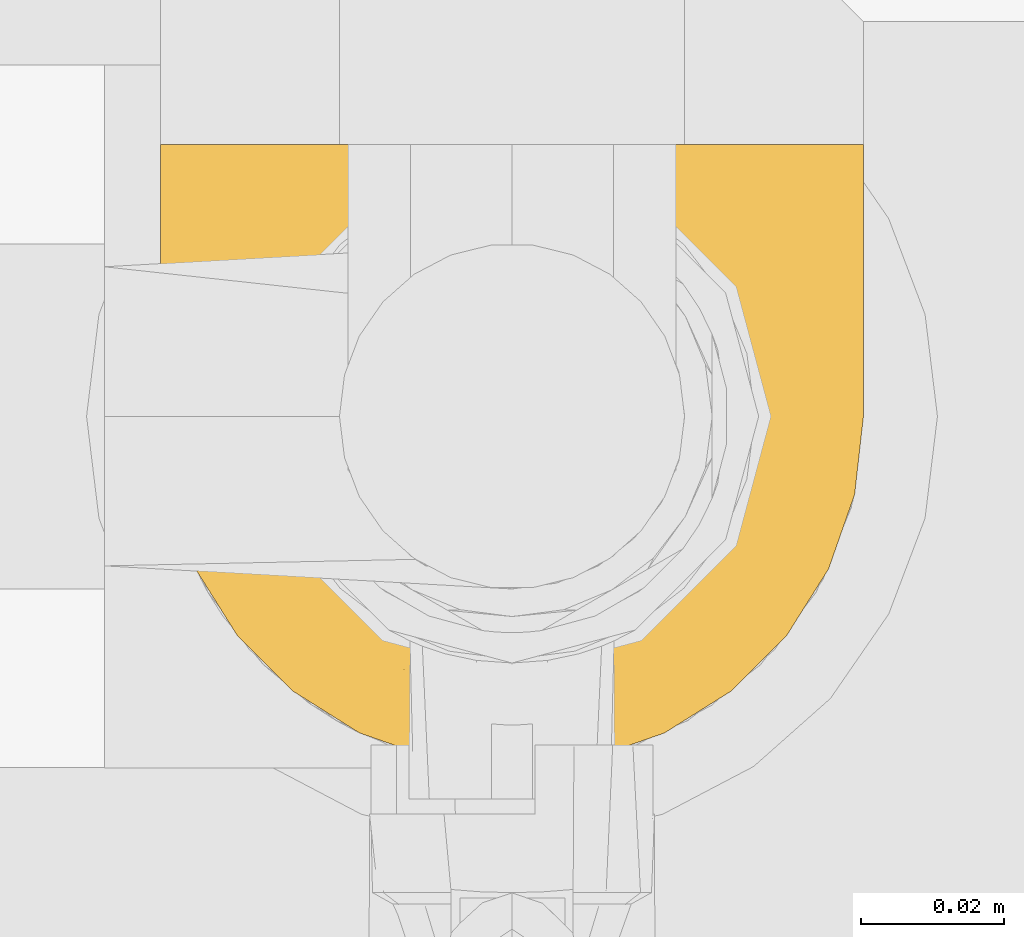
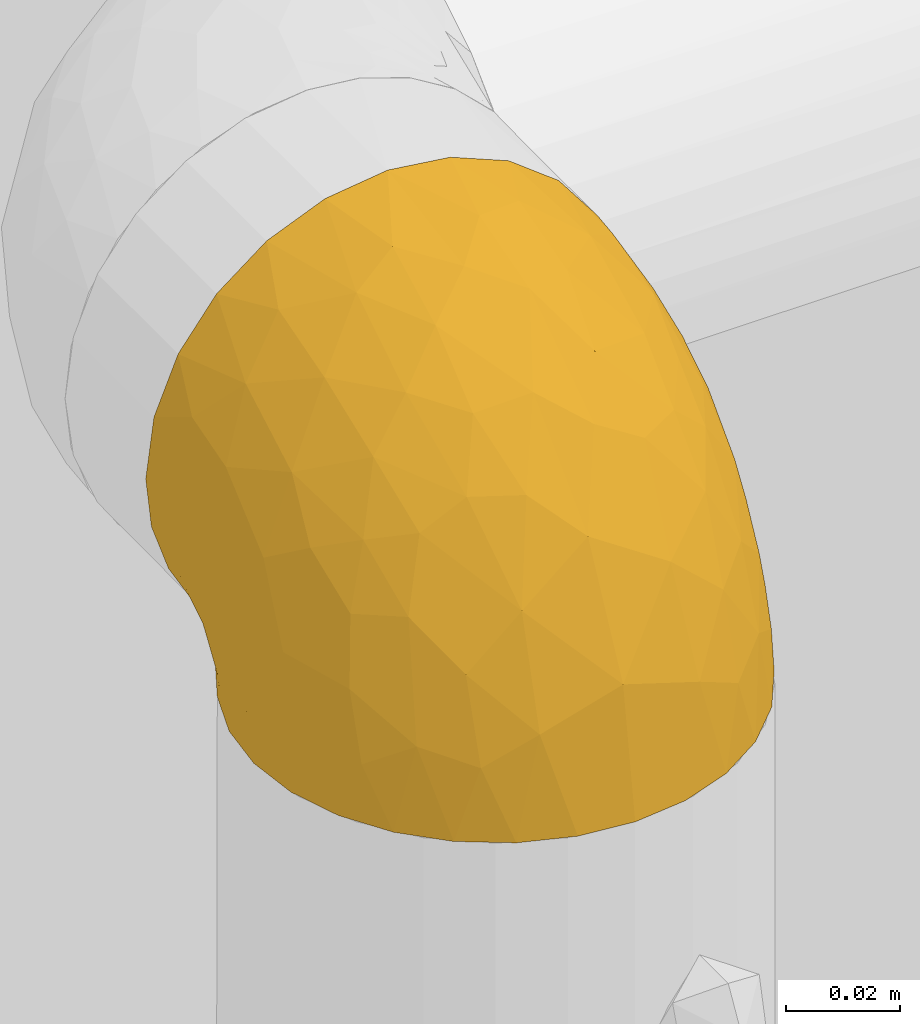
# One storey, part 12 of 94: 1 covering.
"""IFC2X3 building model written with IfcOpenShell, lengths in millimetres."""

from ifc_helpers import new_model, entity, si_unit, converted_unit, derived_unit, direction, frame, origin, place, context, subcontext, project, spatial, faceted_brep, material, element, save


model = new_model("IFC2X3")

# Units and contexts
model_context = context("Model", 3, precision=0.01, world=origin(), true_north=direction((6.123031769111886e-17, 1.0)))
body_context = subcontext(model_context, "Body", "Model", "MODEL_VIEW")
ifc_project = project(units=[si_unit("LENGTHUNIT", "METRE", prefix="MILLI"), si_unit("AREAUNIT", "SQUARE_METRE"), si_unit("VOLUMEUNIT", "CUBIC_METRE"), converted_unit("PLANEANGLEUNIT", "DEGREE", entity("IfcRatioMeasure", 0.017453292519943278), si_unit("PLANEANGLEUNIT", "RADIAN"), dimensions=[0, 0, 0, 0, 0, 0, 0]), si_unit("MASSUNIT", "GRAM", prefix="KILO"), derived_unit("MASSDENSITYUNIT", [(si_unit("MASSUNIT", "GRAM", prefix="KILO"), 1), (si_unit("LENGTHUNIT", "METRE"), -3)]), derived_unit("IONCONCENTRATIONUNIT", [(si_unit("MASSUNIT", "GRAM", prefix="KILO"), 1), (si_unit("LENGTHUNIT", "METRE"), -3)]), derived_unit("MOMENTOFINERTIAUNIT", [(si_unit("LENGTHUNIT", "METRE"), 4)]), si_unit("TIMEUNIT", "SECOND"), si_unit("FREQUENCYUNIT", "HERTZ"), si_unit("THERMODYNAMICTEMPERATUREUNIT", "DEGREE_CELSIUS"), derived_unit("THERMALTRANSMITTANCEUNIT", [(si_unit("MASSUNIT", "GRAM", prefix="KILO"), 1), (si_unit("THERMODYNAMICTEMPERATUREUNIT", "KELVIN"), -1), (si_unit("TIMEUNIT", "SECOND"), -3)]), derived_unit("THERMALCONDUCTANCEUNIT", [(si_unit("MASSUNIT", "GRAM", prefix="KILO"), 1), (si_unit("THERMODYNAMICTEMPERATUREUNIT", "KELVIN"), -1), (si_unit("TIMEUNIT", "SECOND"), -3), (si_unit("LENGTHUNIT", "METRE"), 1)]), derived_unit("VOLUMETRICFLOWRATEUNIT", [(si_unit("LENGTHUNIT", "METRE"), 3), (si_unit("TIMEUNIT", "SECOND"), -1)]), derived_unit("MASSFLOWRATEUNIT", [(si_unit("MASSUNIT", "GRAM", prefix="KILO"), 1), (si_unit("TIMEUNIT", "SECOND"), -1)]), derived_unit("ROTATIONALFREQUENCYUNIT", [(si_unit("TIMEUNIT", "SECOND"), -1)]), si_unit("ELECTRICCURRENTUNIT", "AMPERE"), si_unit("ELECTRICVOLTAGEUNIT", "VOLT"), si_unit("POWERUNIT", "WATT"), si_unit("FORCEUNIT", "NEWTON", prefix="KILO"), si_unit("ILLUMINANCEUNIT", "LUX"), si_unit("LUMINOUSFLUXUNIT", "LUMEN"), si_unit("LUMINOUSINTENSITYUNIT", "CANDELA"), derived_unit("USERDEFINED", [(si_unit("MASSUNIT", "GRAM", prefix="KILO"), -1), (si_unit("LENGTHUNIT", "METRE"), -2), (si_unit("TIMEUNIT", "SECOND"), 3), (si_unit("LUMINOUSFLUXUNIT", "LUMEN"), 1)]), derived_unit("USERDEFINED", [(si_unit("MASSUNIT", "GRAM", prefix="KILO"), 1), (si_unit("TIMEUNIT", "SECOND"), -3), (si_unit("LENGTHUNIT", "METRE"), 3), (si_unit("ELECTRICCURRENTUNIT", "AMPERE"), -2)]), derived_unit("SOUNDPOWERUNIT", [(si_unit("MASSUNIT", "GRAM", prefix="KILO"), 1), (si_unit("TIMEUNIT", "SECOND"), -3), (si_unit("LENGTHUNIT", "METRE"), 2)]), derived_unit("SOUNDPRESSUREUNIT", [(si_unit("MASSUNIT", "GRAM", prefix="KILO"), 1), (si_unit("LENGTHUNIT", "METRE"), -1), (si_unit("TIMEUNIT", "SECOND"), -2)]), derived_unit("LINEARVELOCITYUNIT", [(si_unit("LENGTHUNIT", "METRE"), 1), (si_unit("TIMEUNIT", "SECOND"), -1)]), si_unit("PRESSUREUNIT", "PASCAL"), derived_unit("USERDEFINED", [(si_unit("MASSUNIT", "GRAM", prefix="KILO"), 1), (si_unit("LENGTHUNIT", "METRE"), -2), (si_unit("TIMEUNIT", "SECOND"), -2)]), derived_unit("LINEARFORCEUNIT", [(si_unit("MASSUNIT", "GRAM", prefix="KILO"), 1), (si_unit("TIMEUNIT", "SECOND"), -2)]), derived_unit("PLANARFORCEUNIT", [(si_unit("MASSUNIT", "GRAM", prefix="KILO"), 1), (si_unit("LENGTHUNIT", "METRE"), -1), (si_unit("TIMEUNIT", "SECOND"), -2)]), derived_unit("SPECIFICHEATCAPACITYUNIT", [(si_unit("THERMODYNAMICTEMPERATUREUNIT", "KELVIN"), -1), (si_unit("LENGTHUNIT", "METRE"), 2), (si_unit("TIMEUNIT", "SECOND"), -2)]), derived_unit("HEATINGVALUEUNIT", [(si_unit("LENGTHUNIT", "METRE"), 2), (si_unit("TIMEUNIT", "SECOND"), -2)]), derived_unit("VAPORPERMEABILITYUNIT", [(si_unit("LENGTHUNIT", "METRE"), -1), (si_unit("TIMEUNIT", "SECOND"), 1)]), derived_unit("DYNAMICVISCOSITYUNIT", [(si_unit("MASSUNIT", "GRAM", prefix="KILO"), 1), (si_unit("TIMEUNIT", "SECOND"), -1), (si_unit("LENGTHUNIT", "METRE"), -1)]), derived_unit("THERMALEXPANSIONCOEFFICIENTUNIT", [(si_unit("THERMODYNAMICTEMPERATUREUNIT", "KELVIN"), -1)]), derived_unit("MODULUSOFELASTICITYUNIT", [(si_unit("MASSUNIT", "GRAM", prefix="KILO"), 1), (si_unit("LENGTHUNIT", "METRE"), -1), (si_unit("TIMEUNIT", "SECOND"), -2)]), derived_unit("ISOTHERMALMOISTURECAPACITYUNIT", [(si_unit("LENGTHUNIT", "METRE"), 3), (si_unit("MASSUNIT", "GRAM", prefix="KILO"), -1)]), derived_unit("MOISTUREDIFFUSIVITYUNIT", [(si_unit("TIMEUNIT", "SECOND"), -1), (si_unit("LENGTHUNIT", "METRE"), 2)])], contexts=[model_context])

# Site, building, storey
site_placement = place(None, origin())
site = spatial("IfcSite", under=ifc_project, at=site_placement, Name="Default", CompositionType="ELEMENT")
building_placement = place(site_placement, origin())
building = spatial("IfcBuilding", under=site, at=building_placement, CompositionType="ELEMENT")
storey_placement = place(building_placement, origin())
storey = spatial("IfcBuildingStorey", under=building, at=storey_placement, Name="Niveau 0", CompositionType="ELEMENT", Elevation=0.0)

# Covering
ifc_material = material(Name="Isolation - Laine minérale")
covering_placement = place(storey_placement, frame((-9922.891137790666, 9871.725273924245, 2810.4047277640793)))
element("IfcCovering", 1, at=covering_placement, inside=storey, material=ifc_material, Name="Isolation des canalisations:Laine minérale", ObjectType="Isolation des canalisations:Laine minérale", PredefinedType="INSULATION", context=body_context, shape_type="Brep", body=[
    faceted_brep([(95.02415814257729, 29.412134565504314, 1.5952722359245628), (89.1663101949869, 20.093252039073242, 1.5952722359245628), (81.38263886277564, 12.312548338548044, 1.5952722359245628), (72.06354573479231, 6.459227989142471, 1.5952722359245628), (61.67593083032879, 2.826140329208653, 1.5952722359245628), (50.74527223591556, 1.5952722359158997, 1.5952722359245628), (39.80290363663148, 2.8288129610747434, 1.5952722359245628), (29.412134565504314, 6.466386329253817, 1.5952722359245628), (20.093252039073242, 12.324234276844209, 1.5952722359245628), (12.312548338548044, 20.107905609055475, 1.5952722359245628), (6.459227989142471, 29.426998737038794, 1.5952722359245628), (2.826140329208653, 39.81461364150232, 1.5952722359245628), (1.5952722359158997, 50.74527223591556, 1.5952722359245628), (2.765001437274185, 61.40435822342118, 1.5952722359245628), (6.216868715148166, 71.55257335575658, 1.5952722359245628), (11.785042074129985, 80.70896636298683, 1.5952722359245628), (19.19437336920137, 88.43165280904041, 1.5952722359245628), (21.63864226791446, 88.43165280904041, 1.5952722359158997), (23.415694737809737, 88.43165280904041, 1.5952722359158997), (25.192747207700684, 88.43165280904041, 1.5952722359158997), (26.692340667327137, 88.43165280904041, 1.5952722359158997), (28.191934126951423, 88.43165280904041, 1.5952722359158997), (31.191121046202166, 88.43165280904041, 1.5952722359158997), (34.19030796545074, 88.43165280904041, 1.5952722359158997), (37.18949488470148, 88.43165280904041, 1.5952722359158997), (40.18868180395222, 88.43165280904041, 1.5952722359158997), (41.68827526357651, 88.43165280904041, 1.5952722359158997), (43.1878687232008, 88.43165280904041, 1.5952722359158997), (45.63213762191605, 88.43165280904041, 1.5952722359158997), (48.07640652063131, 88.43165280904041, 1.5952722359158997), (50.5206754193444, 88.43165280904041, 1.5952722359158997), (52.96494431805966, 88.43165280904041, 1.5952722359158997), (55.40921321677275, 88.43165280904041, 1.5952722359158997), (57.853482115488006, 88.43165280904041, 1.5952722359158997), (60.297751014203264, 88.43165280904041, 1.5952722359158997), (62.742019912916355, 88.43165280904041, 1.5952722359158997), (65.18628881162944, 88.43165280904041, 1.5952722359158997), (67.6305577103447, 88.43165280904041, 1.5952722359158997), (70.07482660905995, 88.43165280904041, 1.5952722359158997), (72.51909550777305, 88.43165280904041, 1.5952722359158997), (74.96336440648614, 88.43165280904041, 1.5952722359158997), (77.4076333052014, 88.43165280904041, 1.5952722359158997), (79.85190220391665, 88.43165280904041, 1.5952722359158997), (82.29617110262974, 88.43165280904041, 1.5952722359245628), (89.71827412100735, 80.69235262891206, 1.5952722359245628), (95.28368576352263, 71.53113811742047, 1.5952722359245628), (98.73008326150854, 61.3839004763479, 1.5952722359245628), (99.89527223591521, 50.74527223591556, 1.5952722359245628), (98.66173151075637, 39.80290363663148, 1.5952722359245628), (11.777056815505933, 88.74527223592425, 9.641963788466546), (6.211862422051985, 88.74527223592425, 18.798688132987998), (2.7632985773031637, 88.74527223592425, 28.94385431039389), (1.5952722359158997, 88.74527223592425, 39.59527223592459), (3.270017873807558, 88.74527223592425, 52.31622830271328), (8.18012363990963, 88.74527223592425, 64.17027223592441), (15.990973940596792, 88.74527223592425, 74.34957053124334), (26.170272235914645, 88.74527223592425, 82.16042083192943), (38.02431616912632, 88.74527223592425, 87.07052659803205), (50.74527223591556, 88.74527223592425, 88.74527223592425), (63.46622830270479, 88.74527223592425, 87.07052659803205), (75.3202722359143, 88.74527223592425, 82.16042083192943), (85.49957053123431, 88.74527223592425, 74.34957053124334), (93.31042083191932, 88.74527223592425, 64.17027223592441), (98.22052659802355, 88.74527223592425, 52.31622830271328), (99.89527223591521, 88.74527223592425, 39.59527223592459), (98.72724589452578, 88.74527223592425, 28.94385431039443), (95.27868204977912, 88.74527223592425, 18.798688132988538), (89.71348765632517, 88.74527223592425, 9.641963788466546), (82.29617110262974, 88.74527223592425, 1.9088916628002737), (79.85190220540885, 88.74527223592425, 1.9088916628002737), (78.3523087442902, 88.74527223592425, 1.9088916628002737), (76.3803775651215, 88.74527223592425, 1.9088916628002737), (74.40844638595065, 88.74527223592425, 1.908891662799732), (72.43651520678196, 88.74527223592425, 1.9088916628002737), (70.46458402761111, 88.74527223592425, 1.9088916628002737), (68.49265284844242, 88.74527223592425, 1.9088916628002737), (66.52072166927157, 88.74527223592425, 1.9088916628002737), (64.54879049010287, 88.74527223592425, 1.9088916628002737), (62.57685931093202, 88.74527223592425, 1.9088916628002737), (60.60492813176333, 88.74527223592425, 1.9088916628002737), (58.632996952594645, 88.74527223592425, 1.9088916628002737), (56.66106577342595, 88.74527223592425, 1.9088916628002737), (54.6891345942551, 88.74527223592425, 1.9088916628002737), (52.71720341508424, 88.74527223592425, 1.9088916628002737), (50.74527223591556, 88.74527223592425, 1.9088916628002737), (48.7733410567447, 88.74527223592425, 1.908891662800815), (46.80140987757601, 88.74527223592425, 1.9088916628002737), (44.82947869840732, 88.74527223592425, 1.9088916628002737), (42.85754751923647, 88.74527223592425, 1.9088916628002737), (40.88561634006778, 88.74527223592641, 1.9088916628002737), (38.913685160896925, 88.74527223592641, 1.9088916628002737), (36.94175398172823, 88.74527223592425, 1.9088916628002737), (34.96982280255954, 88.74527223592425, 1.9088916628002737), (31.97063588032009, 88.74527223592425, 1.9088916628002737), (28.971448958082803, 88.74527223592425, 1.9088916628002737), (26.5271800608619, 88.74527223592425, 1.908891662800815), (24.082911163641, 88.74527223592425, 1.9088916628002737), (21.638642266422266, 88.74527223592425, 1.908891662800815), (19.19437336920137, 88.74527223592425, 1.908891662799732), (53.75333970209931, 88.53090125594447, 1.8241875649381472), (51.832765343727, 88.52210831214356, 1.8156242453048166), (61.47290163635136, 88.52122178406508, 1.8147227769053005), (63.562825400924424, 88.5277799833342, 1.821224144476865), (48.00102702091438, 88.5409253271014, 1.8331787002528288), (77.2499939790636, 88.53506454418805, 1.828016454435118), (80.69913834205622, 88.49130573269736, 1.7792781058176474), (42.43807145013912, 88.51810292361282, 1.8114926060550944), (22.860776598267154, 88.52350981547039, 1.8170346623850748), (24.70021643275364, 88.52548149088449, 1.8189889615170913), (71.3700895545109, 88.5165327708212, 1.809830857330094), (73.40383885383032, 88.52674320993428, 1.820221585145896), (44.410002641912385, 88.5046900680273, 1.796462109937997), (37.92771907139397, 88.52964682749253, 1.8230063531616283), (39.81308540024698, 88.53317608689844, 1.8262968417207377), (35.95578792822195, 88.51585328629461, 1.8091041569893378), (49.75930651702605, 88.52914218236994, 1.8225274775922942), (21.02757498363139, 88.5259180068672, 1.8194169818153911), (55.67510065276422, 88.5366490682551, 1.8294378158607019), (67.50668767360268, 88.5374788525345, 1.8301744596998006), (65.61454699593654, 88.53273195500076, 1.8258883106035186), (34.104580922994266, 88.53426299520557, 1.8272900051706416), (57.55217518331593, 88.53370000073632, 1.8267767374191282), (79.10210557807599, 88.52350981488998, 1.8170346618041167), (75.39441218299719, 88.53493173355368, 1.8278964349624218), (82.29617110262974, 88.5235098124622, 1.8170346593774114), (82.29617110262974, 88.49487979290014, 1.747915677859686), (82.29617110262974, 88.46624977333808, 1.6787966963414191), (19.19437336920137, 88.5235098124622, 1.8170346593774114), (19.19437336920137, 88.59262879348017, 1.8456646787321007), (19.19437336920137, 88.66174777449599, 1.8742946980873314), (32.212157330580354, 88.51000647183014, 1.8026539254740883), (69.4355922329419, 88.5304248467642, 1.823740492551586), (46.248287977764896, 88.52246762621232, 1.81598755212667), (59.49061335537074, 88.52470424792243, 1.8182226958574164), (29.41925201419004, 88.50579329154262, 1.7977740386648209), (27.44213716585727, 88.52744143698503, 1.820897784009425), (82.29617110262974, 88.66174777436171, 1.8742946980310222), (82.29617110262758, 88.59262879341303, 1.845664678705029), (19.19437336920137, 88.46624977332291, 1.6787966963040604), (19.19437336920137, 88.49487979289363, 1.7479156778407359), (4.210283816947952, 85.22080157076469, 23.495219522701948), (8.744179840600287, 85.93611072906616, 13.747756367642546), (4.210283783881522, 81.07807843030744, 22.409779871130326), (9.955583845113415, 83.13289242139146, 10.562522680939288), (1.5952722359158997, 79.24527223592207, 37.049754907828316), (1.5952722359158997, 81.28890223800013, 37.59734391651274), (1.5952722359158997, 55.83630689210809, 20.595272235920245), (2.93549782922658, 66.39553001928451, 16.020149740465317), (4.213452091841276, 67.94040403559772, 9.261677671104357), (1.5952722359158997, 69.7452722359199, 34.50423757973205), (9.405305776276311, 80.67378389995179, 9.667897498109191), (9.963487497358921, 79.78892094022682, 7.202912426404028), (2.9356418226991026, 74.32109358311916, 23.94474674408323), (4.213452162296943, 66.85470593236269, 5.119390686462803), (8.750654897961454, 76.60336361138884, 4.402893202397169), (5.690627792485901, 79.64911936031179, 17.541506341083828), (1.5952722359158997, 52.74320051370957, 9.051642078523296), (1.5952722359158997, 53.290789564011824, 11.095272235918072), (4.482619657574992, 73.61168493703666, 16.72885944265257), (1.5952722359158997, 62.790789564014, 27.549754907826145), (5.766057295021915, 73.87988529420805, 12.071559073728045), (2.6117250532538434, 75.3291367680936, 47.62395095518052), (2.657531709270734, 65.91074185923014, 44.00144112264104), (11.131578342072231, 53.84761415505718, 58.899698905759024), (20.824647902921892, 59.13651173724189, 72.66771487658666), (11.7519547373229, 71.16612245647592, 67.20155656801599), (5.336592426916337, 67.00545271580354, 54.07984229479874), (5.33659286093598, 78.88051287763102, 57.54110754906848), (50.74527223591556, 37.51978749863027, 72.10110329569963), (50.74527223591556, 61.81444117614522, 84.4798476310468), (40.339739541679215, 53.87520138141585, 80.24801351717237), (9.12424327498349, 25.78494399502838, 13.851436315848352), (4.351045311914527, 36.244182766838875, 15.165285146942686), (32.64695426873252, 29.562882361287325, 60.77765845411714), (23.768909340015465, 30.77068194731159, 55.385836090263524), (35.61531809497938, 15.292222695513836, 43.89737524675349), (41.696133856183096, 71.31385843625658, 86.12648113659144), (30.50981773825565, 47.24102741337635, 73.23168363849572), (21.748430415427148, 43.50389303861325, 64.7473857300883), (20.824647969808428, 75.28985257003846, 77.40373146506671), (31.9363827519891, 67.10273039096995, 82.14716981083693), (15.984346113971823, 37.099200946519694, 52.82911549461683), (9.509703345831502, 44.515176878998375, 48.878965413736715), (11.405769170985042, 33.70477633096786, 40.607220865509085), (3.723532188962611, 44.051694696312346, 28.76995319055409), (9.124242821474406, 30.04408126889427, 27.448445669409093), (15.984347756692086, 18.312338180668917, 19.800365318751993), (50.74527223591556, 5.860696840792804, 28.52610329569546), (34.50535109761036, 7.041406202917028, 22.71562192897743), (18.53593481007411, 25.61446965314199, 42.31748570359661), (24.588194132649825, 15.886915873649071, 33.6838277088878), (24.58819389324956, 10.600409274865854, 16.806973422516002), (39.07585882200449, 38.50378416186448, 71.0785805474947), (42.346184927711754, 25.345180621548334, 60.332491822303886), (2.563252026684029, 53.16350413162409, 33.37332146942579), (50.74527223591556, 18.23944117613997, 52.82075697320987), (4.72244931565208, 52.69469876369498, 43.46542968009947), (69.55416102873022, 58.175892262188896, 79.2001746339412), (59.5851078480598, 71.7009127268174, 86.24488809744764), (59.865425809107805, 54.574333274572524, 80.83807017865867), (66.13789702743, 42.49805076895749, 72.52816019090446), (69.55416221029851, 75.0623548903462, 83.87397883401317), (85.49332197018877, 24.525141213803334, 35.798660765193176), (78.98858976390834, 25.786342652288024, 48.02046276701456), (76.88743080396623, 15.878231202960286, 33.68736739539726), (85.49294527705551, 37.089792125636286, 52.83844921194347), (78.28666517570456, 35.7133620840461, 59.75598123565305), (97.13479117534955, 36.23150879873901, 15.170016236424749), (98.95303587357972, 70.53804152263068, 45.55141709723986), (99.89527223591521, 69.7452722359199, 34.50423757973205), (99.89527223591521, 79.24527223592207, 37.049754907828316), (66.97173870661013, 7.036299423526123, 22.71467774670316), (80.665896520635, 69.2408611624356, 76.07714087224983), (92.35692696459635, 30.030512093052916, 27.45465165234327), (92.35692651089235, 25.770245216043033, 13.854008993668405), (89.73858944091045, 76.87540408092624, 68.47065883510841), (96.15395178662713, 74.00473445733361, 56.45843349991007), (79.62483877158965, 48.41047025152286, 68.08854506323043), (89.7385902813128, 62.62553049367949, 64.29272071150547), (59.508159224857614, 31.2207767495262, 66.01125638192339), (68.83452868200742, 29.56034539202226, 60.78019542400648), (99.01263503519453, 79.82666983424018, 48.01911236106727), (76.88743104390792, 10.591274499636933, 16.809109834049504), (65.85652255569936, 15.28724730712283, 43.900853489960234), (85.49294363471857, 18.29950680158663, 19.803681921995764), (97.76388503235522, 44.049870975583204, 28.786726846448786), (99.89527223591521, 55.83630689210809, 20.595272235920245), (98.78930951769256, 54.235362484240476, 35.485066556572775), (99.89527223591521, 62.790789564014, 27.549754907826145), (99.89527223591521, 52.74320051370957, 9.051642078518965), (99.89527223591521, 53.290789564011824, 11.095272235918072), (91.50386042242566, 48.41211537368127, 53.16291239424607), (96.4268312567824, 64.14304703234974, 52.05308452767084), (93.14991945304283, 40.10640265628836, 41.401037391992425), (99.08337182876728, 62.890734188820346, 40.721221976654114), (86.09107557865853, 47.67277833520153, 60.91677547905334), (96.67816905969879, 55.389558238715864, 45.94061161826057), (97.28026029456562, 81.0780784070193, 22.409778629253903), (95.72662397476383, 78.26566497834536, 16.46425424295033), (98.55465842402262, 74.32072912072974, 23.943292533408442), (97.28026045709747, 85.22080145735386, 23.495218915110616), (92.74636428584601, 85.93611080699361, 13.74775580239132), (91.53641117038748, 83.13257230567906, 10.564867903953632), (90.11275627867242, 82.68198005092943, 7.656624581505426), (97.0051951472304, 73.61706381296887, 16.72348133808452), (91.54965419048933, 79.75777141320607, 7.216517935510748), (97.2842704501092, 67.91845358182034, 9.263185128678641), (97.28427059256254, 66.83334757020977, 5.1195933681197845), (92.75147496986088, 76.5844900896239, 4.405878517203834), (98.55441347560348, 66.39770760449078, 16.01862728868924), (95.80583125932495, 72.78382599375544, 10.692146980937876)], [[[0, 1, 2, 3, 4, 5, 6, 7, 8, 9, 10, 11, 12, 13, 14, 15, 16, 17, 18, 19, 20, 21, 22, 23, 24, 25, 26, 27, 28, 29, 30, 31, 32, 33, 34, 35, 36, 37, 38, 39, 40, 41, 42, 43, 44, 45, 46, 47, 48]], [[49, 50, 51, 52, 53, 54, 55, 56, 57, 58, 59, 60, 61, 62, 63, 64, 65, 66, 67, 68, 69, 70, 71, 72, 73, 74, 75, 76, 77, 78, 79, 80, 81, 82, 83, 84, 85, 86, 87, 88, 89, 90, 91, 92, 93, 94, 95, 96, 97, 98]], [[99, 100, 83]], [[101, 102, 35]], [[85, 103, 86]], [[71, 70, 104]], [[105, 69, 68]], [[27, 26, 106]], [[18, 107, 108]], [[109, 73, 110]], [[28, 27, 111]], [[25, 112, 113]], [[108, 96, 95]], [[114, 92, 91]], [[103, 85, 115]], [[96, 107, 97]], [[107, 17, 116]], [[78, 102, 101]], [[99, 117, 32]], [[76, 118, 119]], [[120, 92, 114]], [[112, 90, 113]], [[88, 111, 106]], [[40, 39, 110]], [[107, 96, 108]], [[32, 117, 121]], [[91, 90, 112]], [[37, 119, 118]], [[84, 115, 85]], [[69, 105, 122]], [[71, 123, 72]], [[105, 124, 125, 126, 43]], [[116, 17, 16]], [[122, 70, 69]], [[41, 122, 42]], [[116, 127, 128, 129, 98]], [[110, 123, 40]], [[42, 122, 105]], [[120, 23, 130]], [[24, 114, 112]], [[114, 24, 23]], [[104, 123, 71]], [[91, 112, 114]], [[104, 122, 41]], [[24, 112, 25]], [[110, 72, 123]], [[36, 119, 37]], [[40, 123, 41]], [[74, 73, 109]], [[131, 75, 74]], [[118, 131, 37]], [[109, 110, 39]], [[109, 39, 38]], [[73, 72, 110]], [[123, 104, 41]], [[122, 104, 70]], [[26, 25, 113]], [[113, 89, 106]], [[87, 86, 132]], [[113, 106, 26]], [[76, 75, 118]], [[132, 111, 87]], [[106, 111, 27]], [[132, 28, 111]], [[87, 111, 88]], [[88, 106, 89]], [[113, 90, 89]], [[131, 118, 75]], [[38, 37, 131]], [[119, 36, 102]], [[131, 109, 38]], [[109, 131, 74]], [[78, 77, 102]], [[77, 119, 102]], [[77, 76, 119]], [[121, 80, 133]], [[36, 35, 102]], [[33, 121, 133]], [[79, 78, 101]], [[34, 101, 35]], [[132, 29, 28]], [[80, 79, 133]], [[29, 103, 115]], [[30, 29, 115]], [[86, 103, 132]], [[100, 115, 84]], [[31, 30, 100]], [[115, 100, 30]], [[32, 31, 99]], [[117, 81, 121]], [[100, 84, 83]], [[99, 82, 117]], [[81, 117, 82]], [[33, 32, 121]], [[82, 99, 83]], [[100, 99, 31]], [[34, 33, 133]], [[121, 81, 80]], [[133, 101, 34]], [[101, 133, 79]], [[134, 94, 93]], [[23, 120, 114]], [[132, 103, 29]], [[120, 93, 92]], [[93, 120, 130]], [[97, 107, 116]], [[108, 20, 19, 18]], [[21, 135, 134]], [[20, 135, 21]], [[134, 135, 94]], [[108, 95, 135]], [[108, 135, 20]], [[135, 95, 94]], [[134, 22, 21]], [[130, 22, 134]], [[42, 105, 43]], [[105, 68, 136, 137, 124]], [[97, 116, 98]], [[116, 16, 138, 139, 127]], [[18, 17, 107]], [[93, 130, 134]], [[22, 130, 23]], [[140, 141, 142]], [[143, 129, 128, 127]], [[51, 144, 145, 52]], [[146, 147, 148]], [[142, 149, 144]], [[150, 127, 151]], [[50, 140, 51]], [[142, 152, 149]], [[51, 140, 144]], [[129, 143, 141]], [[14, 13, 153]], [[148, 151, 154]], [[155, 141, 143]], [[151, 138, 154]], [[14, 153, 154]], [[16, 15, 138]], [[13, 12, 156, 157]], [[152, 155, 158]], [[159, 158, 147]], [[157, 148, 153]], [[14, 154, 15]], [[49, 98, 129]], [[49, 129, 141]], [[141, 50, 49]], [[160, 148, 147]], [[146, 148, 157]], [[138, 15, 154]], [[150, 158, 155]], [[151, 127, 139, 138]], [[141, 140, 50]], [[144, 140, 142]], [[157, 153, 13]], [[154, 153, 148]], [[149, 152, 159]], [[160, 147, 158]], [[147, 146, 159]], [[155, 152, 142]], [[159, 152, 158]], [[127, 150, 143]], [[160, 150, 151]], [[150, 160, 158]], [[148, 160, 151]], [[141, 155, 142]], [[155, 143, 150]], [[156, 12, 11]], [[161, 149, 162]], [[163, 164, 165]], [[166, 167, 161]], [[168, 169, 170]], [[54, 165, 55]], [[171, 172, 10]], [[173, 174, 175]], [[57, 176, 58]], [[173, 177, 178]], [[179, 56, 55]], [[54, 167, 165]], [[170, 180, 177]], [[56, 179, 180]], [[167, 54, 53]], [[181, 182, 183]], [[184, 146, 172]], [[172, 185, 184]], [[186, 185, 171]], [[186, 9, 8]], [[172, 146, 157, 156]], [[172, 11, 10]], [[173, 178, 174]], [[6, 187, 188]], [[189, 186, 190]], [[191, 186, 8]], [[175, 190, 188]], [[168, 192, 193]], [[189, 190, 174]], [[56, 180, 57]], [[8, 7, 191]], [[188, 7, 6]], [[6, 5, 187]], [[190, 191, 188]], [[159, 194, 162]], [[175, 187, 195]], [[177, 180, 164]], [[10, 9, 171]], [[176, 180, 170]], [[156, 11, 172]], [[163, 165, 166]], [[179, 165, 164]], [[53, 52, 145]], [[185, 189, 183]], [[184, 196, 194]], [[188, 191, 7]], [[186, 191, 190]], [[186, 171, 9]], [[172, 171, 185]], [[187, 175, 188]], [[193, 175, 195]], [[196, 163, 166]], [[163, 181, 178]], [[162, 166, 161]], [[184, 185, 183]], [[178, 177, 164]], [[177, 192, 170]], [[177, 173, 192]], [[176, 170, 169]], [[58, 176, 169]], [[57, 180, 176]], [[193, 192, 173]], [[168, 170, 192]], [[175, 193, 173]], [[168, 193, 195]], [[163, 178, 164]], [[184, 194, 146]], [[178, 181, 174]], [[189, 174, 181]], [[175, 174, 190]], [[183, 189, 181]], [[186, 189, 185]], [[182, 181, 163]], [[183, 182, 184]], [[163, 196, 182]], [[184, 182, 196]], [[165, 179, 55]], [[180, 179, 164]], [[161, 53, 145]], [[165, 167, 166]], [[53, 161, 167]], [[161, 145, 144, 149]], [[159, 162, 149]], [[196, 166, 162]], [[162, 194, 196]], [[146, 194, 159]], [[197, 198, 199]], [[58, 169, 198]], [[197, 199, 200]], [[198, 197, 201]], [[202, 203, 204]], [[60, 59, 201]], [[205, 206, 203]], [[0, 48, 207]], [[208, 209, 210]], [[187, 4, 211]], [[201, 212, 60]], [[213, 214, 207]], [[61, 215, 62]], [[62, 215, 216]], [[3, 211, 4]], [[217, 218, 212]], [[219, 220, 200]], [[216, 208, 221]], [[3, 2, 222]], [[62, 216, 63]], [[61, 60, 212]], [[211, 3, 222]], [[5, 4, 187]], [[217, 197, 200]], [[203, 223, 204]], [[2, 1, 224]], [[225, 213, 207]], [[204, 222, 224]], [[1, 0, 214]], [[204, 224, 202]], [[207, 226, 225]], [[227, 226, 228]], [[223, 211, 204]], [[214, 224, 1]], [[202, 224, 213]], [[48, 47, 229]], [[207, 229, 230, 226]], [[211, 223, 187]], [[218, 231, 232]], [[48, 229, 207]], [[205, 233, 231]], [[233, 213, 225]], [[217, 212, 197]], [[215, 212, 218]], [[228, 234, 227]], [[233, 205, 202]], [[208, 234, 209]], [[63, 221, 64]], [[235, 205, 231]], [[207, 214, 0]], [[224, 214, 213]], [[224, 222, 2]], [[211, 222, 204]], [[219, 223, 220]], [[187, 223, 195]], [[227, 233, 225]], [[234, 228, 209]], [[231, 233, 236]], [[221, 208, 210]], [[232, 208, 216]], [[64, 221, 210]], [[216, 221, 63]], [[233, 202, 213]], [[203, 202, 205]], [[205, 235, 206]], [[223, 203, 220]], [[200, 206, 217]], [[220, 203, 206]], [[232, 231, 236]], [[235, 218, 217]], [[212, 215, 61]], [[216, 215, 218]], [[218, 232, 216]], [[234, 232, 236]], [[232, 234, 208]], [[234, 236, 227]], [[233, 227, 236]], [[226, 227, 225]], [[198, 201, 59]], [[212, 201, 197]], [[58, 198, 59]], [[198, 169, 199]], [[169, 168, 199]], [[219, 200, 199]], [[219, 199, 168]], [[200, 220, 206]], [[168, 195, 219]], [[223, 219, 195]], [[218, 235, 231]], [[206, 235, 217]], [[65, 64, 210]], [[209, 237, 210]], [[238, 237, 239]], [[66, 240, 241]], [[242, 136, 241]], [[243, 137, 242]], [[243, 244, 245]], [[65, 240, 66]], [[136, 68, 67]], [[136, 67, 241]], [[246, 226, 230]], [[66, 241, 67]], [[210, 237, 240]], [[45, 247, 46]], [[209, 239, 237]], [[246, 247, 248]], [[46, 247, 230]], [[249, 250, 244]], [[239, 228, 244]], [[226, 246, 249]], [[250, 248, 245]], [[44, 43, 126]], [[237, 242, 241]], [[248, 45, 44]], [[44, 126, 248]], [[46, 230, 229, 47]], [[245, 126, 125]], [[126, 245, 248]], [[243, 124, 137]], [[210, 240, 65]], [[241, 240, 237]], [[248, 247, 45]], [[230, 247, 246]], [[226, 249, 228]], [[238, 239, 244]], [[239, 209, 228]], [[250, 249, 246]], [[228, 249, 244]], [[243, 242, 238]], [[136, 242, 137]], [[124, 243, 125]], [[125, 243, 245]], [[243, 238, 244]], [[237, 238, 242]], [[248, 250, 246]], [[244, 250, 245]]]),
])

save(model, "model.ifc")
